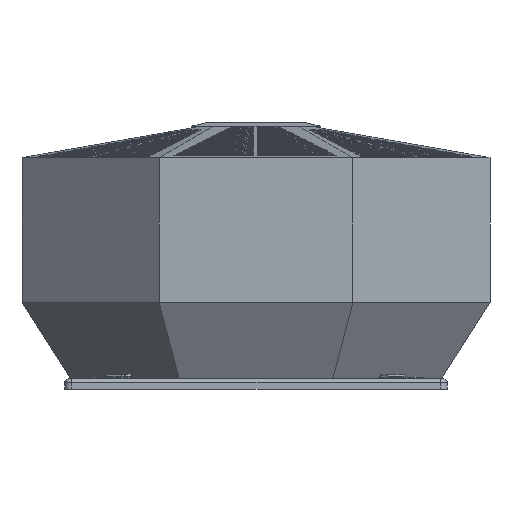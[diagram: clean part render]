
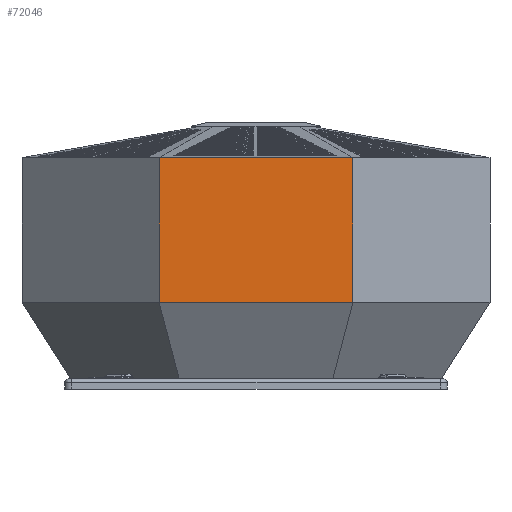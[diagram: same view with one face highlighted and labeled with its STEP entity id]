
A CAD part, left-side view. The second image highlights one B-rep face of the part: STEP entity #72046.
In plain terms, the highlighted planar face has unit normal (-1, 0, 0).
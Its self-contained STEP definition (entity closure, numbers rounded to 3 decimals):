
#9334=FACE_OUTER_BOUND('',#13455,.T.);
#13455=EDGE_LOOP('',(#62178,#62179,#62180,#62181));
#19951=LINE('',#121331,#26370);
#19958=LINE('',#121344,#26377);
#19961=LINE('',#121353,#26380);
#19963=LINE('',#121356,#26382);
#26370=VECTOR('',#95994,10.);
#26377=VECTOR('',#96009,10.);
#26380=VECTOR('',#96020,10.);
#26382=VECTOR('',#96024,10.);
#27860=VERTEX_POINT('',#105878);
#29154=VERTEX_POINT('',#108542);
#32897=VERTEX_POINT('',#121323);
#32902=VERTEX_POINT('',#121352);
#42698=EDGE_CURVE('',#32897,#27860,#19951,.T.);
#42705=EDGE_CURVE('',#29154,#27860,#19958,.T.);
#42708=EDGE_CURVE('',#32902,#32897,#19961,.T.);
#42710=EDGE_CURVE('',#29154,#32902,#19963,.T.);
#62178=ORIENTED_EDGE('',*,*,#42698,.T.);
#62179=ORIENTED_EDGE('',*,*,#42705,.F.);
#62180=ORIENTED_EDGE('',*,*,#42710,.T.);
#62181=ORIENTED_EDGE('',*,*,#42708,.T.);
#65324=PLANE('',#78014);
#72046=ADVANCED_FACE('',(#9334),#65324,.T.);
#78014=AXIS2_PLACEMENT_3D('',#121355,#96022,#96023);
#95994=DIRECTION('',(0.,1.,0.));
#96009=DIRECTION('',(0.,0.,1.));
#96020=DIRECTION('',(0.,0.,1.));
#96022=DIRECTION('center_axis',(-1.,0.,0.));
#96023=DIRECTION('ref_axis',(0.,-1.,0.));
#96024=DIRECTION('',(0.,-1.,0.));
#105878=CARTESIAN_POINT('',(205.185,945.116,347.999));
#108542=CARTESIAN_POINT('',(205.185,945.116,135.999));
#121323=CARTESIAN_POINT('',(205.185,661.379,347.999));
#121331=CARTESIAN_POINT('',(205.185,1045.432,347.999));
#121344=CARTESIAN_POINT('',(205.185,945.116,23.999));
#121352=CARTESIAN_POINT('',(205.185,661.379,135.999));
#121353=CARTESIAN_POINT('',(205.185,661.379,23.999));
#121355=CARTESIAN_POINT('Origin',(205.185,945.116,23.999));
#121356=CARTESIAN_POINT('',(205.185,1045.432,135.999));
